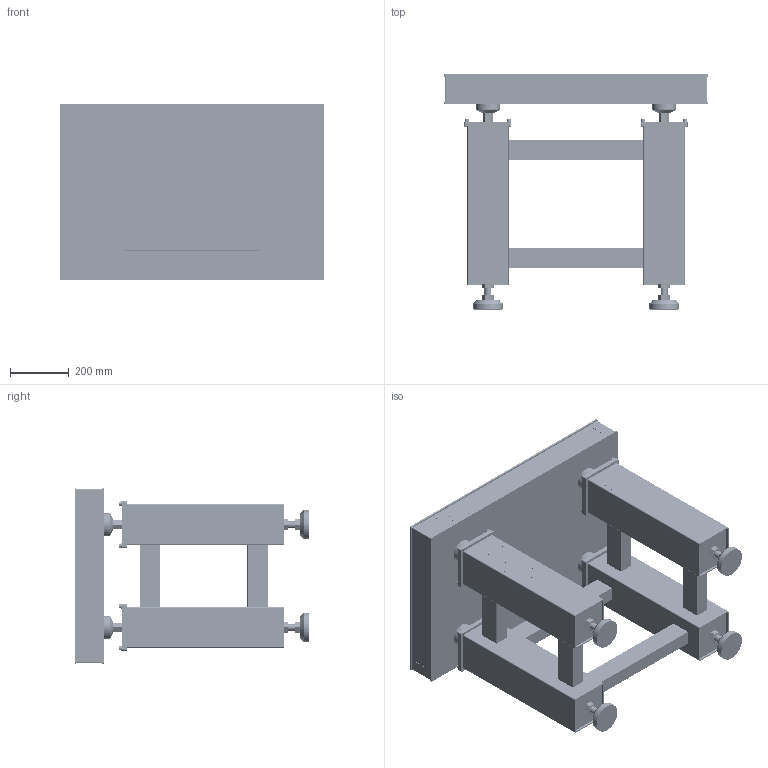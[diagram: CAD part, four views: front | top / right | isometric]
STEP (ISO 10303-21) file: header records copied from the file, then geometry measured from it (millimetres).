
FILE_DESCRIPTION (( 'STEP AP203' ), '1' );
FILE_NAME ('GDE-0906 ¹âÑ§Æ½Ì¨.STEP', '2018-02-06T01:39:53', ( 'pc' ), ( '' ), 'SwSTEP 2.0', 'SolidWorks 2016', '' );
FILE_SCHEMA (( 'CONFIG_CONTROL_DESIGN' ));
Products named in the file (1): GDE-0906 嫖悝す怢
Bounding box: 900 x 800 x 600 mm (x, y, z)
Volume: 16858281.7 mm3; surface area: 6863080 mm2
Topology: 112 solids, 112 shells, 5579 faces, 14986 edges, 9884 vertices
Faces by surface type: plane 2222, cylinder 1900, bspline 1225, cone 200, torus 32
Entity records: 187909 total; most frequent: CARTESIAN_POINT 49659, ORIENTED_EDGE 29908, DIRECTION 25302, EDGE_CURVE 14954, VERTEX_POINT 9884, AXIS2_PLACEMENT_3D 8571, VECTOR 8160, LINE 8160
